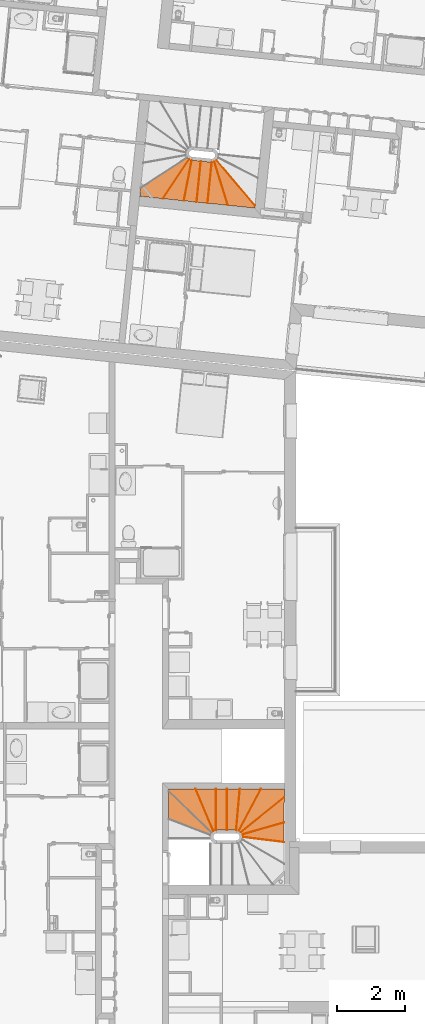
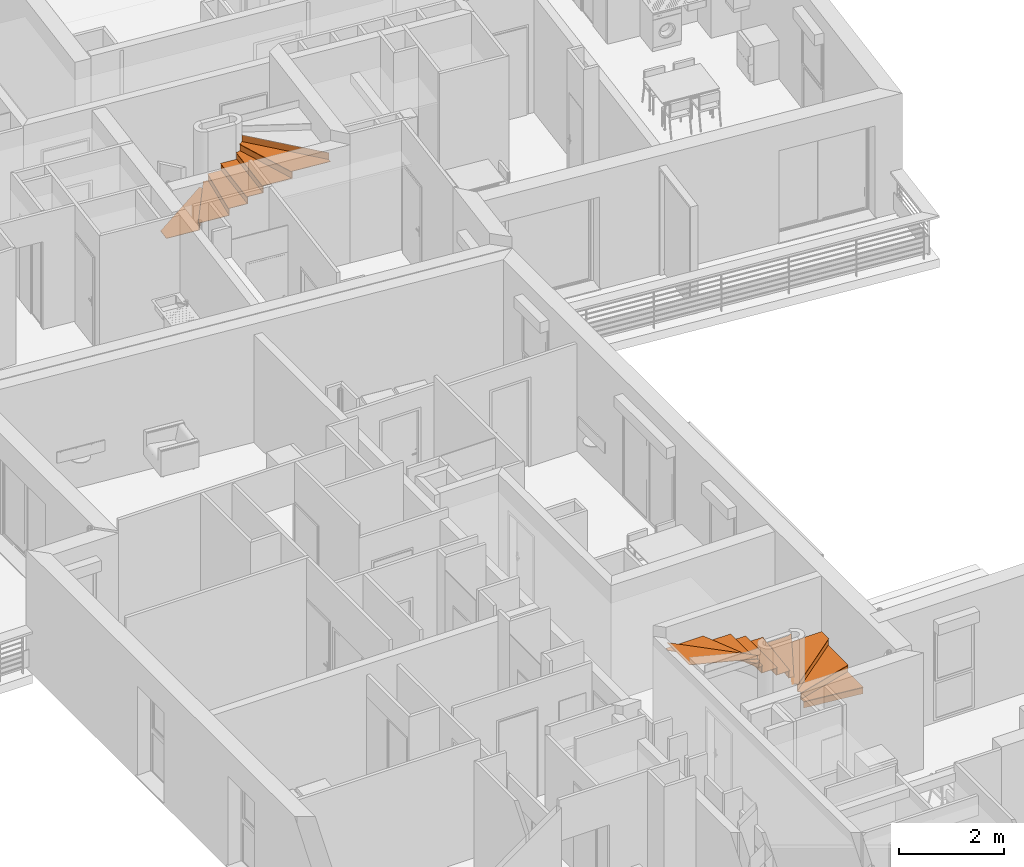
# One storey, part 162 of 164: 29 proxies, 2 elements without a shape of their own.
"""IFC2X3 building model written with IfcOpenShell, lengths in millimetres."""

import ifcopenshell
import ifcopenshell.guid

model = None  # the IFC model being written
_history = None  # IfcOwnerHistory: only IFC2X3 demands one
_inside = {}  # id of a spatial element -> (the spatial element, [elements in it])
_under = {}  # id of a project, library or spatial element -> (it, [spatial elements below it])
_declared = {}  # id of a project -> (the project, [libraries it declares])
_typed = {}  # id of a type object -> (the type object, [elements of that type])
_made_of = {}  # id of a material, layer set ... -> (it, [elements and type objects made of it])


def new_model(schema):
    """Start an empty IFC model of exactly this schema.

    Asked for "IFC4X3", IfcOpenShell would pick the latest addendum, in which some entities
    have other attributes; the version numbers below select the first issue.
    IFC2X3 requires an IfcOwnerHistory on every rooted entity: one is made here for all.
    """
    global model, _history
    if schema == "IFC4X3":
        model = ifcopenshell.file(schema_version=(4, 3, 0, 0))
    else:
        model = ifcopenshell.file(schema=schema)
    _inside.clear()
    _under.clear()
    _declared.clear()
    _typed.clear()
    _made_of.clear()
    _history = None
    if model.schema == "IFC2X3":
        org = make("IfcOrganization", Name="unknown")
        user = make(
            "IfcPersonAndOrganization",
            ThePerson=make("IfcPerson", FamilyName="unknown"),
            TheOrganization=org,
        )
        app = make(
            "IfcApplication",
            ApplicationDeveloper=org,
            Version="unknown",
            ApplicationFullName="unknown",
            ApplicationIdentifier="unknown",
        )
        _history = make(
            "IfcOwnerHistory",
            OwningUser=user,
            OwningApplication=app,
            ChangeAction="ADDED",
            CreationDate=0,
        )
    return model


def make(cls, **values):
    """One entity of the class cls with the attributes given. An attribute that is None is left unset."""
    return model.create_entity(
        cls, **{name: value for name, value in values.items() if value is not None}
    )


def entity(cls, *values):
    """Any entity or typed value of the class cls, its attributes in the order of the schema. None: left unset."""
    e = model.create_entity(cls)
    for i, value in enumerate(values):
        if value is not None:
            e[i] = value
    return e


def rooted(cls, **values):
    """An entity with a GlobalId (a new one), such as an element, a storey or a relation."""
    return make(cls, GlobalId=ifcopenshell.guid.new(), OwnerHistory=_history, **values)


def si_unit(unit_type, name, prefix=None):
    """IfcSIUnit, for example si_unit("LENGTHUNIT", "METRE", prefix="MILLI")."""
    return make("IfcSIUnit", UnitType=unit_type, Prefix=prefix, Name=name)


def converted_unit(unit_type, name, factor, base, dimensions=None, offset=None):
    """IfcConversionBasedUnit, such as the inch: factor (a typed value) times the base unit."""
    return make(
        "IfcConversionBasedUnit"
        if offset is None
        else "IfcConversionBasedUnitWithOffset",
        ConversionOffset=offset,
        Dimensions=None
        if dimensions is None
        else entity("IfcDimensionalExponents", *dimensions),
        UnitType=unit_type,
        Name=name,
        ConversionFactor=make(
            "IfcMeasureWithUnit", ValueComponent=factor, UnitComponent=base
        ),
    )


def derived_unit(unit_type, elements):
    """IfcDerivedUnit: a product of units, each with its exponent."""
    return make(
        "IfcDerivedUnit",
        Elements=[
            make("IfcDerivedUnitElement", Unit=unit, Exponent=power)
            for unit, power in elements
        ],
        UnitType=unit_type,
    )


def money_unit(currency):
    """IfcMonetaryUnit."""
    return make("IfcMonetaryUnit", Currency=currency)


def assignment(units):
    """IfcUnitAssignment: the units of a project."""
    return None if units is None else make("IfcUnitAssignment", Units=units)


def point(xyz):
    """IfcCartesianPoint."""
    return None if xyz is None else make("IfcCartesianPoint", Coordinates=xyz)


def direction(xyz):
    """IfcDirection."""
    return None if xyz is None else make("IfcDirection", DirectionRatios=xyz)


def frame(location, z_axis=None, x_axis=None):
    """IfcAxis2Placement3D, a coordinate frame: its origin and axes. An axis left out is left unset."""
    return make(
        "IfcAxis2Placement3D",
        Location=point(location),
        Axis=direction(z_axis),
        RefDirection=direction(x_axis),
    )


def origin_with_axes():
    """The frame at (0, 0, 0) with the z axis (0, 0, 1) and the x axis (1, 0, 0) written out."""
    return frame((0.0, 0.0, 0.0), z_axis=(0.0, 0.0, 1.0), x_axis=(1.0, 0.0, 0.0))


def place(relative_to, where):
    """IfcLocalPlacement: puts the frame where relative to a parent placement (None: the world)."""
    return make(
        "IfcLocalPlacement", PlacementRelTo=relative_to, RelativePlacement=where
    )


def context(
    kind, dimensions, precision=None, world=None, true_north=None, identifier=None
):
    """IfcGeometricRepresentationContext, for example the 3D "Model" context."""
    return make(
        "IfcGeometricRepresentationContext",
        ContextIdentifier=identifier,
        ContextType=kind,
        CoordinateSpaceDimension=dimensions,
        Precision=precision,
        WorldCoordinateSystem=world,
        TrueNorth=true_north,
    )


def subcontext(parent, identifier, kind, view, scale=None):
    """IfcGeometricRepresentationSubContext, for example "Body" below "Model"."""
    return make(
        "IfcGeometricRepresentationSubContext",
        ContextIdentifier=identifier,
        ContextType=kind,
        ParentContext=parent,
        TargetScale=scale,
        TargetView=view,
    )


def project(units=None, contexts=None):
    """IfcProject with its units and contexts."""
    return rooted(
        "IfcProject",
        Name="project",
        RepresentationContexts=contexts,
        UnitsInContext=assignment(units),
    )


def spatial(cls, under=None, at=None, **own):
    """A site, building, storey or space (cls), placed at a placement, below another one or the project."""
    s = rooted(cls, ObjectPlacement=at, **own)
    if under is not None:
        _under.setdefault(under.id(), (under, []))[1].append(s)
    return s


def faces_of(points, faces, orient=None, outer=None):
    """IfcFace entities. A face is a list of loops; a loop is a list of indices into points, from 0.

    orient and outer hold one flag for each loop. By default every Orientation is true, the
    first loop of a face is its IfcFaceOuterBound and the others are IfcFaceBound.
    """
    made = []
    for i, loops in enumerate(faces):
        bounds = []
        for j, loop in enumerate(loops):
            is_outer = j == 0 if outer is None else outer[i][j]
            bounds.append(
                make(
                    "IfcFaceOuterBound" if is_outer else "IfcFaceBound",
                    Bound=make("IfcPolyLoop", Polygon=[points[k] for k in loop]),
                    Orientation=True if orient is None else orient[i][j],
                )
            )
        made.append(make("IfcFace", Bounds=bounds))
    return made


def faceted_brep(points, faces, orient=None, outer=None, voids=None):
    """IfcFacetedBrep: a solid bounded by flat faces; with voids (closed shells), ...WithVoids."""
    shared = [point(p) for p in points]
    hull = make("IfcClosedShell", CfsFaces=faces_of(shared, faces, orient, outer))
    if voids is None:
        return make("IfcFacetedBrep", Outer=hull)
    return make(
        "IfcFacetedBrepWithVoids",
        Outer=hull,
        Voids=[
            make(cls, CfsFaces=faces_of(shared, fs, o, b)) for cls, fs, o, b in voids
        ],
    )


def shape(context_of_items, identifier, shape_type, items):
    """IfcShapeRepresentation: the items that make up one representation, for example the "Body"."""
    return make(
        "IfcShapeRepresentation",
        ContextOfItems=context_of_items,
        RepresentationIdentifier=identifier,
        RepresentationType=shape_type,
        Items=items,
    )


def material(Name=None, Category=None):
    """IfcMaterial."""
    return make("IfcMaterial", Name=Name, Category=Category)


def made_of(thing, what):
    """Note that an element or type object is made of a material, layer set ...; save() writes the relation."""
    if what is not None:
        _made_of.setdefault(what.id(), (what, []))[1].append(thing)
    return thing


def type_object(cls, material=None, **own):
    """A type object (cls), such as IfcWallType, which elements share."""
    return made_of(rooted(cls, **own), material)


def element(
    cls,
    number,
    at=None,
    inside=None,
    cuts=None,
    type_object=None,
    material=None,
    context=None,
    identifier="Body",
    shape_type=None,
    held_by="IfcProductDefinitionShape",
    body=None,
    shapes=None,
    **own,
):
    """One element of the class cls, such as IfcWall. Its Tag is "e" and its number.

    at: its placement. inside: the storey or other place that contains it. cuts: it is an
    opening in that element (IfcRelVoidsElement). A single representation is given by context,
    identifier, shape_type and body (its items); several are given by shapes. held_by: the class
    of the entity that holds the representations. save() writes the other relations.
    """
    e = rooted(cls, Tag="e%d" % number, ObjectPlacement=at, **own)
    if body is not None:
        shapes = [shape(context, identifier, shape_type, body)]
    if shapes is not None:
        e.Representation = make(held_by, Representations=shapes)
    if inside is not None:
        _inside.setdefault(inside.id(), (inside, []))[1].append(e)
    if cuts is not None:
        rooted(
            "IfcRelVoidsElement", RelatingBuildingElement=cuts, RelatedOpeningElement=e
        )
    if type_object is not None:
        _typed.setdefault(type_object.id(), (type_object, []))[1].append(e)
    return made_of(e, material)


def aggregate(whole, parts):
    """IfcRelAggregates: a whole, such as a stair, and the parts it consists of."""
    return rooted("IfcRelAggregates", RelatingObject=whole, RelatedObjects=parts)


def save(model, path):
    """Write the relations noted so far, then the file.

    IfcRelAggregates (storeys below a building ...), IfcRelContainedInSpatialStructure (elements
    in a storey), IfcRelDefinesByType, IfcRelAssociatesMaterial and IfcRelDeclares: one each for
    every whole, place, type object, material and project.
    """
    for whole, parts in _under.values():
        aggregate(whole, parts)
    for where, things in _inside.values():
        rooted(
            "IfcRelContainedInSpatialStructure",
            RelatedElements=things,
            RelatingStructure=where,
        )
    for kind, things in _typed.values():
        rooted("IfcRelDefinesByType", RelatedObjects=things, RelatingType=kind)
    for what, things in _made_of.values():
        rooted("IfcRelAssociatesMaterial", RelatedObjects=things, RelatingMaterial=what)
    for by, libraries in _declared.values():
        rooted("IfcRelDeclares", RelatingContext=by, RelatedDefinitions=libraries)
    model.write(path)


model = new_model("IFC2X3")

# Units and contexts
model_context = context("Model", 3, precision=0.01, world=origin_with_axes(), true_north=direction((0.0, 1.0)))
body_context = subcontext(model_context, "Body", "Model", "MODEL_VIEW")
ifc_project = project(units=[si_unit("LENGTHUNIT", "METRE", prefix="MILLI"), si_unit("AREAUNIT", "SQUARE_METRE"), si_unit("VOLUMEUNIT", "CUBIC_METRE"), converted_unit("PLANEANGLEUNIT", "DEGREE", entity("IfcPlaneAngleMeasure", 0.0174532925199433), si_unit("PLANEANGLEUNIT", "RADIAN"), dimensions=[0, 0, 0, 0, 0, 0, 0]), money_unit("USD"), converted_unit("TIMEUNIT", "Year", entity("IfcTimeMeasure", 31557600.0), si_unit("TIMEUNIT", "SECOND"), dimensions=[0, 0, 1, 0, 0, 0, 0]), si_unit("MASSUNIT", "GRAM", prefix="KILO"), si_unit("THERMODYNAMICTEMPERATUREUNIT", "DEGREE_CELSIUS"), si_unit("LUMINOUSINTENSITYUNIT", "LUMEN"), si_unit("ENERGYUNIT", "JOULE", prefix="MEGA"), derived_unit("THERMALCONDUCTANCEUNIT", [(si_unit("POWERUNIT", "WATT"), 1), (si_unit("LENGTHUNIT", "METRE"), -1), (si_unit("THERMODYNAMICTEMPERATUREUNIT", "KELVIN"), -1)]), derived_unit("SPECIFICHEATCAPACITYUNIT", [(si_unit("ENERGYUNIT", "JOULE"), 1), (si_unit("MASSUNIT", "GRAM", prefix="KILO"), -1), (si_unit("THERMODYNAMICTEMPERATUREUNIT", "KELVIN"), -1)]), derived_unit("MASSDENSITYUNIT", [(si_unit("MASSUNIT", "GRAM", prefix="KILO"), 1), (si_unit("VOLUMEUNIT", "CUBIC_METRE"), -1)])], contexts=[model_context])

# Site, building, storey
site_placement = place(None, origin_with_axes())
site = spatial("IfcSite", under=ifc_project, at=site_placement, Name="Site", CompositionType="ELEMENT")
building_placement = place(site_placement, origin_with_axes())
building = spatial("IfcBuilding", under=site, at=building_placement, Name="Bâtiment", CompositionType="ELEMENT")
storey_placement = place(building_placement, frame((0.0, 0.0, 5750.0), z_axis=(0.0, 0.0, 1.0), x_axis=(1.0, 0.0, 0.0)))
storey = spatial("IfcBuildingStorey", under=building, at=storey_placement, Name="Etage1", CompositionType="ELEMENT", Elevation=5750.0)

# Stair, proxies
stair_1_placement = place(storey_placement, frame((2227115.16403848, -636013.3434519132, 0.0), z_axis=(0.0, 0.0, 1.0), x_axis=(1.0, 0.0, 0.0)))
stair_1 = element("IfcStair", 1, at=stair_1_placement, inside=storey, Name="ESC-020", ShapeType="NOTDEFINED")
ifc_material_1 = material(Name="Parpaing 2676271321")
building_element_proxy_type = type_object("IfcBuildingElementProxyType", Name="IfcBuildingElementProxy", PredefinedType="NOTDEFINED")
proxy_1_placement = place(stair_1_placement, frame((1582.145980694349, 100.1630841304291, 1122.35294117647), z_axis=(0.0, 0.0, 1.0), x_axis=(0.9923864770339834, -0.123162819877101, 0.0)))
proxy_1 = element("IfcBuildingElementProxy", 2, at=proxy_1_placement, type_object=building_element_proxy_type, material=ifc_material_1, Name="C-MARCHE-338", context=body_context, shape_type="Brep", body=[
    faceted_brep([(616.9148624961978, 14.99999999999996, 0.0), (615.6568410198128, 24.99999999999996, 0.0), (-611.3159759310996, 25.00000000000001, 0.0), (-610.5635345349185, 15.00000000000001, 0.0), (616.9148624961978, 14.99999999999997, -151.7647058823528), (615.6568410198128, 24.99999999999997, -151.7647058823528), (-611.3159759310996, 25.00000000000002, -151.7647058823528), (-610.5635345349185, 15.00000000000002, -151.7647058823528)], [[[0, 1, 2, 3]], [[0, 4, 5, 1]], [[1, 5, 6, 2]], [[3, 2, 6, 7]], [[4, 0, 3, 7]], [[5, 4, 7, 6]]]),
])
proxy_2_placement = place(stair_1_placement, frame((1557.233341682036, 422.1230880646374, 1284.117647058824), z_axis=(0.0, 0.0, 1.0), x_axis=(0.9616268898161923, 0.2743605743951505, 0.0)))
proxy_2 = element("IfcBuildingElementProxy", 3, at=proxy_2_placement, type_object=building_element_proxy_type, material=ifc_material_1, Name="C-MARCHE-339", context=body_context, shape_type="Brep", body=[
    faceted_brep([(669.3900729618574, 14.99999999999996, 0.0), (672.2592924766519, 24.99999999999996, 0.0), (-611.3159759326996, 25.00000000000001, 0.0), (-610.5635345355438, 15.00000000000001, 0.0), (669.3900729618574, 14.99999999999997, -151.764705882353), (672.2592924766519, 24.99999999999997, -151.764705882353), (-611.3159759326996, 25.00000000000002, -151.764705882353), (-610.5635345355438, 15.00000000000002, -151.764705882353)], [[[0, 1, 2, 3]], [[0, 4, 5, 1]], [[1, 5, 6, 2]], [[3, 2, 6, 7]], [[4, 0, 3, 7]], [[5, 4, 7, 6]]]),
])
proxy_3_placement = place(stair_1_placement, frame((1408.508417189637, 708.7583624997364, 1445.882352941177), z_axis=(0.0, 0.0, 1.0), x_axis=(0.7779965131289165, 0.6282685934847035, 0.0)))
proxy_3 = element("IfcBuildingElementProxy", 4, at=proxy_3_placement, type_object=building_element_proxy_type, material=ifc_material_1, Name="C-MARCHE-340", context=body_context, shape_type="Brep", body=[
    faceted_brep([(1026.802065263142, 15.00000000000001, 0.0), (1034.902198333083, 25.00000000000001, 0.0), (-611.3159759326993, 25.00000000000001, 0.0), (-610.5635345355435, 15.00000000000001, 0.0), (1026.802065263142, 15.00000000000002, -151.764705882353), (1034.902198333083, 25.00000000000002, -151.764705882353), (-611.3159759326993, 25.00000000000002, -151.764705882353), (-610.5635345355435, 15.00000000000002, -151.764705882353)], [[[0, 1, 2, 3]], [[0, 4, 5, 1]], [[1, 5, 6, 2]], [[3, 2, 6, 7]], [[4, 0, 3, 7]], [[5, 4, 7, 6]]]),
])
proxy_4_placement = place(stair_1_placement, frame((1159.614157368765, 914.5022108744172, 1607.647058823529), z_axis=(0.0, 0.0, 1.0), x_axis=(0.4706872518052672, 0.8823001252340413, 0.0)))
proxy_4 = element("IfcBuildingElementProxy", 5, at=proxy_4_placement, type_object=building_element_proxy_type, material=ifc_material_1, Name="C-MARCHE-341", context=body_context, shape_type="Brep", body=[
    faceted_brep([(791.4159478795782, 14.9999999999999, 0.0), (786.0811756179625, 24.9999999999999, 0.0), (-611.3159759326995, 25.00000000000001, 0.0), (-610.5635345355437, 15.00000000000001, 0.0), (791.4159478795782, 14.99999999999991, -151.7647058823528), (786.0811756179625, 24.99999999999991, -151.7647058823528), (-611.3159759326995, 25.00000000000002, -151.7647058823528), (-610.5635345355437, 15.00000000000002, -151.7647058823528)], [[[0, 1, 2, 3]], [[0, 4, 5, 1]], [[1, 5, 6, 2]], [[3, 2, 6, 7]], [[4, 0, 3, 7]], [[5, 4, 7, 6]]]),
])
proxy_5_placement = place(stair_1_placement, frame((200.0104641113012, 1009.829175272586, 2092.941176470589), z_axis=(0.0, 0.0, 1.0), x_axis=(2.01427872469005e-07, 0.9999999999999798, 0.0)))
proxy_5 = element("IfcBuildingElementProxy", 6, at=proxy_5_placement, type_object=building_element_proxy_type, material=ifc_material_1, Name="C-MARCHE-344", context=body_context, shape_type="Brep", body=[
    faceted_brep([(609.9999927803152, 14.99999999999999, 0.0), (609.9999879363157, 24.99999999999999, 0.0), (-611.3039816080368, 24.99999999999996, 0.0), (-610.556363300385, 14.99999999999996, 0.0), (609.9999927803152, 14.99999999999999, -151.764705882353), (609.9999879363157, 24.99999999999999, -151.764705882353), (-611.3039816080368, 24.99999999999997, -151.764705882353), (-610.556363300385, 14.99999999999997, -151.764705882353)], [[[0, 1, 2, 3]], [[0, 4, 5, 1]], [[1, 5, 6, 2]], [[3, 2, 6, 7]], [[4, 0, 3, 7]], [[5, 4, 7, 6]]]),
])
proxy_6_placement = place(stair_1_placement, frame((850.1175319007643, 1006.64732761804, 1769.411764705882), z_axis=(0.0, 0.0, 1.0), x_axis=(0.08855236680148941, 0.9960715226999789, 0.0)))
proxy_6 = element("IfcBuildingElementProxy", 7, at=proxy_6_placement, type_object=building_element_proxy_type, material=ifc_material_1, Name="C-MARCHE-342", context=body_context, shape_type="Brep", body=[
    faceted_brep([(614.2665554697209, 15.00000000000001, 0.0), (613.3775413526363, 25.00000000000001, 0.0), (-611.3159759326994, 25.00000000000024, 0.0), (-610.5635345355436, 15.00000000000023, 0.0), (614.2665554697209, 15.00000000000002, -151.764705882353), (613.3775413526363, 25.00000000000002, -151.764705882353), (-611.3159759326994, 25.00000000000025, -151.764705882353), (-610.5635345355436, 15.00000000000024, -151.764705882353)], [[[0, 1, 2, 3]], [[0, 4, 5, 1]], [[1, 5, 6, 2]], [[3, 2, 6, 7]], [[4, 0, 3, 7]], [[5, 4, 7, 6]]]),
])
proxy_7_placement = place(stair_1_placement, frame((-116.4375896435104, 945.4901224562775, 2254.705882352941), z_axis=(0.0, 0.0, 1.0), x_axis=(-0.3905995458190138, 0.9205606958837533, 0.0)))
proxy_7 = element("IfcBuildingElementProxy", 8, at=proxy_7_placement, type_object=building_element_proxy_type, material=ifc_material_1, Name="C-MARCHE-345", context=body_context, shape_type="Brep", body=[
    faceted_brep([(738.895190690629, 15.00000000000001, 0.0), (743.1382486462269, 25.00000000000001, 0.0), (-611.3159759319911, 25.00000000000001, 0.0), (-610.5635345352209, 15.00000000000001, 0.0), (738.895190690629, 15.00000000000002, -151.764705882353), (743.1382486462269, 25.00000000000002, -151.764705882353), (-611.3159759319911, 25.00000000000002, -151.764705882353), (-610.5635345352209, 15.00000000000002, -151.764705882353)], [[[0, 1, 2, 3]], [[0, 4, 5, 1]], [[1, 5, 6, 2]], [[3, 2, 6, 7]], [[4, 0, 3, 7]], [[5, 4, 7, 6]]]),
])
ifc_material_2 = material(Name="Lame d'air 275581351")
proxy_8_placement = place(stair_1_placement, frame((1582.145980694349, 100.1630841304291, 1132.352941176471), z_axis=(0.0, 0.0, 1.0), x_axis=(0.9923864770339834, -0.123162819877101, 0.0)))
proxy_8 = element("IfcBuildingElementProxy", 9, at=proxy_8_placement, type_object=building_element_proxy_type, material=ifc_material_2, Name="MARCHE-338", context=body_context, shape_type="Brep", body=[
    faceted_brep([(-610.0000000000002, 0.0, -10.0), (618.801894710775, 0.0, -10.0), (618.801894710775, 0.0, 0.0), (-610.0000000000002, 0.0, 0.0), (-610.4531617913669, 13.45295387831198, -10.0), (-618.7562293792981, 58.51773040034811, -10.0), (-637.1026110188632, 100.5080304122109, -10.0), (544.6802479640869, 602.110660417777, -10.0), (606.7813705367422, 95.5510251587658, -10.0), (606.7813705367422, 95.5510251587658, 0.0), (544.6802479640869, 602.110660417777, 0.0), (-637.1026110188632, 100.5080304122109, 0.0), (-618.7562293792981, 58.51773040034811, 0.0), (-610.4531617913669, 13.45295387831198, 0.0)], [[[0, 1, 2, 3]], [[0, 4, 5, 6, 7, 8, 1]], [[1, 8, 9, 2]], [[3, 2, 9, 10, 11, 12, 13]], [[4, 0, 3, 13]], [[5, 4, 13, 12]], [[6, 5, 12, 11]], [[7, 6, 11, 10]], [[8, 7, 10, 9]]]),
])
proxy_9_placement = place(stair_1_placement, frame((1557.233341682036, 422.1230880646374, 1294.117647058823), z_axis=(0.0, 0.0, 1.0), x_axis=(0.9616268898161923, 0.2743605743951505, 0.0)))
proxy_9 = element("IfcBuildingElementProxy", 10, at=proxy_9_placement, type_object=building_element_proxy_type, material=ifc_material_2, Name="MARCHE-339", context=body_context, shape_type="Brep", body=[
    faceted_brep([(-609.9999999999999, 0.0, -10.0), (665.0862436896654, 0.0, -10.0), (665.0862436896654, 0.0, 0.0), (-609.9999999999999, 0.0, 0.0), (-613.07410592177, 34.92373449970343, -10.0), (-622.2018820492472, 68.7734178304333, -10.0), (-637.1026110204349, 100.5080303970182, -10.0), (878.498300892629, 743.7982911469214, -10.0), (878.498300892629, 743.7982911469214, 0.0), (-637.1026110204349, 100.5080303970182, 0.0), (-622.2018820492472, 68.7734178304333, 0.0), (-613.07410592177, 34.92373449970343, 0.0)], [[[0, 1, 2, 3]], [[0, 4, 5, 6, 7, 1]], [[1, 7, 8, 2]], [[3, 2, 8, 9, 10, 11]], [[4, 0, 3, 11]], [[5, 4, 11, 10]], [[6, 5, 10, 9]], [[7, 6, 9, 8]]]),
])
proxy_10_placement = place(stair_1_placement, frame((1408.508417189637, 708.7583624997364, 1455.882352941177), z_axis=(0.0, 0.0, 1.0), x_axis=(0.7779965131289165, 0.6282685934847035, 0.0)))
proxy_10 = element("IfcBuildingElementProxy", 11, at=proxy_10_placement, type_object=building_element_proxy_type, material=ifc_material_2, Name="MARCHE-340", context=body_context, shape_type="Brep", body=[
    faceted_brep([(-609.9999999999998, 0.0, -10.0), (1014.651865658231, 0.0, -10.0), (1014.651865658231, 0.0, 0.0), (-609.9999999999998, 0.0, 0.0), (-613.0741059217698, 34.92373449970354, -10.0), (-622.2018820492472, 68.77341783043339, -10.0), (-637.102611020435, 100.5080303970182, -10.0), (649.4549417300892, 646.5818266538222, -10.0), (1186.861356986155, 212.6008175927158, -10.0), (1186.861356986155, 212.6008175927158, 0.0), (649.4549417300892, 646.5818266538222, 0.0), (-637.102611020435, 100.5080303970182, 0.0), (-622.2018820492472, 68.77341783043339, 0.0), (-613.0741059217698, 34.92373449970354, 0.0)], [[[0, 1, 2, 3]], [[0, 4, 5, 6, 7, 8, 1]], [[1, 8, 9, 2]], [[3, 2, 9, 10, 11, 12, 13]], [[4, 0, 3, 13]], [[5, 4, 13, 12]], [[6, 5, 12, 11]], [[7, 6, 11, 10]], [[8, 7, 10, 9]]]),
])
proxy_11_placement = place(stair_1_placement, frame((1159.614157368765, 914.5022108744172, 1617.647058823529), z_axis=(0.0, 0.0, 1.0), x_axis=(0.4706872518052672, 0.8823001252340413, 0.0)))
proxy_11 = element("IfcBuildingElementProxy", 12, at=proxy_11_placement, type_object=building_element_proxy_type, material=ifc_material_2, Name="MARCHE-341", context=body_context, shape_type="Brep", body=[
    faceted_brep([(-609.9999999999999, 0.0, -10.0), (799.4181062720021, 0.0, -10.0), (799.4181062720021, 0.0, 0.0), (-609.9999999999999, 0.0, 0.0), (-615.971666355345, 48.49727697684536, -10.0), (-633.5299051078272, 94.0972213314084, -10.0), (-636.9781155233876, 100.5608719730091, -10.0), (490.4787422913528, 579.1050654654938, -10.0), (490.4787422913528, 579.1050654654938, 0.0), (-636.9781155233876, 100.5608719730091, 0.0), (-633.5299051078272, 94.0972213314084, 0.0), (-615.971666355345, 48.49727697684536, 0.0)], [[[0, 1, 2, 3]], [[0, 4, 5, 6, 7, 1]], [[1, 7, 8, 2]], [[3, 2, 8, 9, 10, 11]], [[4, 0, 3, 11]], [[5, 4, 11, 10]], [[6, 5, 10, 9]], [[7, 6, 9, 8]]]),
])
proxy_12_placement = place(stair_1_placement, frame((850.1175319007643, 1006.64732761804, 1779.411764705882), z_axis=(0.0, 0.0, 1.0), x_axis=(0.08855236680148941, 0.9960715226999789, 0.0)))
proxy_12 = element("IfcBuildingElementProxy", 13, at=proxy_12_placement, type_object=building_element_proxy_type, material=ifc_material_2, Name="MARCHE-342", context=body_context, shape_type="Brep", body=[
    faceted_brep([(-609.9999999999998, 0.0, -10.0), (615.6000766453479, 0.0, -10.0), (615.6000766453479, 0.0, 0.0), (-609.9999999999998, 0.0, 0.0), (-610.7853563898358, 17.70287107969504, -10.0), (-635.42825621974, 294.8964425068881, -10.0), (579.7790232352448, 402.9300852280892, -10.0), (604.4219230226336, 125.7365142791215, -10.0), (604.4219230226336, 125.7365142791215, 0.0), (579.7790232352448, 402.9300852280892, 0.0), (-635.42825621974, 294.8964425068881, 0.0), (-610.7853563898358, 17.70287107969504, 0.0)], [[[0, 1, 2, 3]], [[0, 4, 5, 6, 7, 1]], [[1, 7, 8, 2]], [[3, 2, 8, 9, 10, 11]], [[4, 0, 3, 11]], [[5, 4, 11, 10]], [[6, 5, 10, 9]], [[7, 6, 9, 8]]]),
])
proxy_13_placement = place(stair_1_placement, frame((525.1110302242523, 1009.829109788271, 1941.176470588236), z_axis=(0.0, 0.0, 1.0), x_axis=(2.014278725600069e-07, 0.9999999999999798, 0.0)))
proxy_13 = element("IfcBuildingElementProxy", 14, at=proxy_13_placement, type_object=building_element_proxy_type, material=ifc_material_2, Name="MARCHE-343", context=body_context, shape_type="Brep", body=[
    faceted_brep([(-609.9999999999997, 0.0, -10.0), (609.9999999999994, 0.0, -10.0), (609.9999999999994, 0.0, 0.0), (-609.9999999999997, 0.0, 0.0), (-609.9999999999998, 325.196259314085, -10.0), (-611.5572991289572, 350.1005661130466, -10.0), (609.9999879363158, 350.1005661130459, -10.0), (609.9999999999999, 325.1961787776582, -10.0), (609.9999999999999, 325.1961787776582, 0.0), (609.9999879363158, 350.1005661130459, 0.0), (-611.5572991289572, 350.1005661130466, 0.0), (-609.9999999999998, 325.196259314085, 0.0)], [[[0, 1, 2, 3]], [[0, 4, 5, 6, 7, 1]], [[1, 7, 8, 2]], [[3, 2, 8, 9, 10, 11]], [[4, 0, 3, 11]], [[5, 4, 11, 10]], [[6, 5, 10, 9]], [[7, 6, 9, 8]]]),
])
proxy_14_placement = place(stair_1_placement, frame((200.0104641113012, 1009.829175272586, 2102.941176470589), z_axis=(0.0, 0.0, 1.0), x_axis=(2.01427872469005e-07, 0.9999999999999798, 0.0)))
proxy_14 = element("IfcBuildingElementProxy", 15, at=proxy_14_placement, type_object=building_element_proxy_type, material=ifc_material_2, Name="MARCHE-344", context=body_context, shape_type="Brep", body=[
    faceted_brep([(-609.9999999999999, 0.0, -10.0), (609.9999999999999, 0.0, -10.0), (609.9999999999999, 0.0, 0.0), (-609.9999999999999, 0.0, 0.0), (-609.9999999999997, 0.09569320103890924, -10.0), (-613.0727411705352, 35.01165415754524, -10.0), (-622.1964792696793, 68.85428217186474, -10.0), (-637.0907469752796, 100.5832414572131, -10.0), (609.9996950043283, 629.7316564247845, -10.0), (609.9999999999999, 0.09561266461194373, -10.0), (609.9999999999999, 0.09561266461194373, 0.0), (609.9996950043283, 629.7316564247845, 0.0), (-637.0907469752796, 100.5832414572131, 0.0), (-622.1964792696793, 68.85428217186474, 0.0), (-613.0727411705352, 35.01165415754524, 0.0), (-609.9999999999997, 0.09569320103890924, 0.0)], [[[0, 1, 2, 3]], [[0, 4, 5, 6, 7, 8, 9, 1]], [[1, 9, 10, 2]], [[3, 2, 10, 11, 12, 13, 14, 15]], [[4, 0, 3, 15]], [[5, 4, 15, 14]], [[6, 5, 14, 13]], [[7, 6, 13, 12]], [[8, 7, 12, 11]], [[9, 8, 11, 10]]]),
])
proxy_15_placement = place(stair_1_placement, frame((-382.594805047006, 762.6261828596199, 2426.470588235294), z_axis=(0.0, 0.0, 1.0), x_axis=(-0.719223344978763, 0.6947789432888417, 0.0)))
proxy_15 = element("IfcBuildingElementProxy", 16, at=proxy_15_placement, type_object=building_element_proxy_type, material=ifc_material_2, Name="MARCHE-346", context=body_context, shape_type="Brep", body=[
    faceted_brep([(-609.9999999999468, 0.0, -10.0), (1168.148248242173, 0.0, -10.0), (1168.148248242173, 0.0, 0.0), (-609.9999999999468, 0.0, 0.0), (-613.0741059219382, 34.92373450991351, -10.0), (-622.2018820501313, 68.77341785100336, -10.0), (-637.102611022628, 100.5080304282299, -10.0), (572.6500316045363, 613.9823142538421, -10.0), (572.6500316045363, 613.9823142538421, 0.0), (-637.102611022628, 100.5080304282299, 0.0), (-622.2018820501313, 68.77341785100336, 0.0), (-613.0741059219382, 34.92373450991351, 0.0)], [[[0, 1, 2, 3]], [[0, 4, 5, 6, 7, 1]], [[1, 7, 8, 2]], [[3, 2, 8, 9, 10, 11]], [[4, 0, 3, 11]], [[5, 4, 11, 10]], [[6, 5, 10, 9]], [[7, 6, 9, 8]]]),
])
proxy_16_placement = place(stair_1_placement, frame((-116.4375896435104, 945.4901224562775, 2264.705882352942), z_axis=(0.0, 0.0, 1.0), x_axis=(-0.3905995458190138, 0.9205606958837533, 0.0)))
proxy_16 = element("IfcBuildingElementProxy", 17, at=proxy_16_placement, type_object=building_element_proxy_type, material=ifc_material_2, Name="MARCHE-345", context=body_context, shape_type="Brep", body=[
    faceted_brep([(-609.9999999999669, 0.0, -10.0), (732.5306037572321, 0.0, -10.0), (732.5306037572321, 0.0, 0.0), (-609.9999999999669, 0.0, 0.0), (-613.0741059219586, 34.92373450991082, -10.0), (-622.201882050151, 68.77341785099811, -10.0), (-637.1026110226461, 100.5080304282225, -10.0), (978.8331675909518, 786.3849918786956, -10.0), (1052.932155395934, 755.1194327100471, -10.0), (1052.932155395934, 755.1194327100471, 0.0), (978.8331675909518, 786.3849918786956, 0.0), (-637.1026110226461, 100.5080304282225, 0.0), (-622.201882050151, 68.77341785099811, 0.0), (-613.0741059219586, 34.92373450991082, 0.0)], [[[0, 1, 2, 3]], [[0, 4, 5, 6, 7, 8, 1]], [[1, 8, 9, 2]], [[3, 2, 9, 10, 11, 12, 13]], [[4, 0, 3, 13]], [[5, 4, 13, 12]], [[6, 5, 12, 11]], [[7, 6, 11, 10]], [[8, 7, 10, 9]]]),
])
proxy_17_placement = place(stair_1_placement, frame((525.1110302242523, 1009.829109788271, 1931.176470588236), z_axis=(0.0, 0.0, 1.0), x_axis=(2.014278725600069e-07, 0.9999999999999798, 0.0)))
proxy_17 = element("IfcBuildingElementProxy", 18, at=proxy_17_placement, type_object=building_element_proxy_type, material=ifc_material_1, Name="C-MARCHE-343", context=body_context, shape_type="Brep", body=[
    faceted_brep([(610.0000000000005, 15.0, 0.0), (610.0000000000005, 24.99999999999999, 0.0), (-610.0, 24.99999999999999, 0.0), (-610.0, 15.0, 0.0), (610.0000000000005, 15.00000000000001, -151.7647058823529), (610.0000000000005, 25.0, -151.7647058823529), (-610.0, 25.0, -151.7647058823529), (-610.0, 15.00000000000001, -151.7647058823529)], [[[0, 1, 2, 3]], [[0, 4, 5, 1]], [[1, 5, 6, 2]], [[3, 2, 6, 7]], [[4, 0, 3, 7]], [[5, 4, 7, 6]]]),
])
aggregate(stair_1, [proxy_1, proxy_2, proxy_3, proxy_4, proxy_5, proxy_6, proxy_7, proxy_8, proxy_9, proxy_10, proxy_11, proxy_12, proxy_13, proxy_14, proxy_15, proxy_16, proxy_17])

stair_2_placement = place(storey_placement, frame((2227388.475510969, -615472.1219328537, 0.0), z_axis=(0.0, 0.0, 1.0), x_axis=(-0.9948232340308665, 0.1016205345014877, 0.0)))
stair_2 = element("IfcStair", 19, at=stair_2_placement, inside=storey, Name="ESC-020", ShapeType="NOTDEFINED")
proxy_18_placement = place(stair_2_placement, frame((1159.614157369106, 914.5022108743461, 1607.647058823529), z_axis=(0.0, 0.0, 1.0), x_axis=(0.4706872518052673, 0.8823001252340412, 0.0)))
proxy_18 = element("IfcBuildingElementProxy", 20, at=proxy_18_placement, type_object=building_element_proxy_type, material=ifc_material_2, Name="C-MARCHE-341", context=body_context, shape_type="Brep", body=[
    faceted_brep([(791.4159478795, 15.00000000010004, 0.0), (786.0811756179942, 25.00000000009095, 0.0), (-611.3159759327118, 25.00000000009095, 0.0), (-610.5635345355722, 14.99999999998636, 0.0), (791.4159478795, 15.00000000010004, -151.7647058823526), (786.0811756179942, 25.00000000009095, -151.7647058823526), (-611.3159759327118, 25.00000000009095, -151.7647058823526), (-610.5635345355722, 14.99999999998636, -151.7647058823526)], [[[0, 1, 2, 3]], [[0, 4, 5, 1]], [[1, 5, 6, 2]], [[3, 2, 6, 7]], [[4, 0, 3, 7]], [[5, 4, 7, 6]]]),
])
proxy_19_placement = place(stair_2_placement, frame((850.1175319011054, 1006.647327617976, 1769.411764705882), z_axis=(0.0, 0.0, 1.0), x_axis=(0.0885523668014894, 0.9960715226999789, 0.0)))
proxy_19 = element("IfcBuildingElementProxy", 21, at=proxy_19_placement, type_object=building_element_proxy_type, material=ifc_material_2, Name="C-MARCHE-342", context=body_context, shape_type="Brep", body=[
    faceted_brep([(614.2665554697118, 14.99999999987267, 0.0), (613.3775413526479, 24.99999999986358, 0.0), (-611.3159759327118, 24.99999999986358, 0.0), (-610.563534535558, 14.99999999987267, 0.0), (614.2665554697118, 14.99999999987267, -151.7647058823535), (613.3775413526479, 24.99999999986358, -151.7647058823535), (-611.3159759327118, 24.99999999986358, -151.7647058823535), (-610.563534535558, 14.99999999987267, -151.7647058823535)], [[[0, 1, 2, 3]], [[0, 4, 5, 1]], [[1, 5, 6, 2]], [[3, 2, 6, 7]], [[4, 0, 3, 7]], [[5, 4, 7, 6]]]),
])
proxy_20_placement = place(stair_2_placement, frame((525.1110302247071, 1009.8291097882, 1931.176470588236), z_axis=(0.0, 0.0, 1.0), x_axis=(2.014278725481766e-07, 0.9999999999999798, 0.0)))
proxy_20 = element("IfcBuildingElementProxy", 22, at=proxy_20_placement, type_object=building_element_proxy_type, material=ifc_material_2, Name="C-MARCHE-343", context=body_context, shape_type="Brep", body=[
    faceted_brep([(609.9999999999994, 14.99999999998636, 0.0), (610.0000000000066, 24.99999999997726, 0.0), (-610.0000000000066, 24.99999999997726, 0.0), (-609.9999999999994, 14.99999999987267, 0.0), (609.9999999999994, 14.99999999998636, -151.7647058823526), (610.0000000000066, 24.99999999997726, -151.7647058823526), (-610.0000000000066, 24.99999999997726, -151.7647058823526), (-609.9999999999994, 14.99999999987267, -151.7647058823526)], [[[0, 1, 2, 3]], [[0, 4, 5, 1]], [[1, 5, 6, 2]], [[3, 2, 6, 7]], [[4, 0, 3, 7]], [[5, 4, 7, 6]]]),
])
proxy_21_placement = place(stair_2_placement, frame((200.0104641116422, 1009.829175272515, 2092.941176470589), z_axis=(0.0, 0.0, 1.0), x_axis=(2.014278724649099e-07, 0.9999999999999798, 0.0)))
proxy_21 = element("IfcBuildingElementProxy", 23, at=proxy_21_placement, type_object=building_element_proxy_type, material=ifc_material_2, Name="C-MARCHE-344", context=body_context, shape_type="Brep", body=[
    faceted_brep([(609.9999927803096, 15.00000000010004, 0.0), (609.9999879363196, 25.00000000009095, 0.0), (-611.3039816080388, 25.00000000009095, 0.0), (-610.5563633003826, 15.00000000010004, 0.0), (609.9999927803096, 15.00000000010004, -151.7647058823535), (609.9999879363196, 25.00000000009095, -151.7647058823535), (-611.3039816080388, 25.00000000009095, -151.7647058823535), (-610.5563633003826, 15.00000000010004, -151.7647058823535)], [[[0, 1, 2, 3]], [[0, 4, 5, 1]], [[1, 5, 6, 2]], [[3, 2, 6, 7]], [[4, 0, 3, 7]], [[5, 4, 7, 6]]]),
])
proxy_22_placement = place(stair_2_placement, frame((-116.4375896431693, 945.4901224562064, 2254.705882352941), z_axis=(0.0, 0.0, 1.0), x_axis=(-0.3905995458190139, 0.9205606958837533, 0.0)))
proxy_22 = element("IfcBuildingElementProxy", 24, at=proxy_22_placement, type_object=building_element_proxy_type, material=ifc_material_2, Name="C-MARCHE-345", context=body_context, shape_type="Brep", body=[
    faceted_brep([(738.8951906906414, 14.99999999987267, 0.0), (743.1382486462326, 24.99999999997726, 0.0), (-611.3159759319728, 24.99999999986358, 0.0), (-610.5635345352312, 14.99999999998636, 0.0), (738.8951906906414, 14.99999999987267, -151.7647058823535), (743.1382486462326, 24.99999999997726, -151.7647058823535), (-611.3159759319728, 24.99999999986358, -151.7647058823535), (-610.5635345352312, 14.99999999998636, -151.7647058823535)], [[[0, 1, 2, 3]], [[0, 4, 5, 1]], [[1, 5, 6, 2]], [[3, 2, 6, 7]], [[4, 0, 3, 7]], [[5, 4, 7, 6]]]),
])
proxy_23_placement = place(stair_2_placement, frame((-382.5948050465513, 762.6261828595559, 2416.470588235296), z_axis=(0.0, 0.0, 1.0), x_axis=(-0.7192233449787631, 0.6947789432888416, 0.0)))
proxy_23 = element("IfcBuildingElementProxy", 25, at=proxy_23_placement, type_object=building_element_proxy_type, material=ifc_material_2, Name="C-MARCHE-346", context=body_context, shape_type="Brep", body=[
    faceted_brep([(1153.599827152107, 14.99999999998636, 0.0), (1143.900879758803, 24.99999999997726, 0.0), (-611.315975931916, 24.99999999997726, 0.0), (-610.5635345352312, 14.99999999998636, 0.0), (1153.599827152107, 14.99999999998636, -151.7647058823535), (1143.900879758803, 24.99999999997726, -151.7647058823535), (-611.315975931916, 24.99999999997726, -151.7647058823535), (-610.5635345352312, 14.99999999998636, -151.7647058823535)], [[[0, 1, 2, 3]], [[0, 4, 5, 1]], [[1, 5, 6, 2]], [[3, 2, 6, 7]], [[4, 0, 3, 7]], [[5, 4, 7, 6]]]),
])
proxy_24_placement = place(stair_2_placement, frame((1408.508417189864, 708.7583624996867, 1455.882352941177), z_axis=(0.0, 0.0, 1.0), x_axis=(0.7779965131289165, 0.6282685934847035, 0.0)))
proxy_24 = element("IfcBuildingElementProxy", 26, at=proxy_24_placement, type_object=building_element_proxy_type, material=ifc_material_2, Name="MARCHE-340", context=body_context, shape_type="Brep", body=[
    faceted_brep([(-609.9999999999, 0.0, -9.999999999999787), (1014.651865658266, 0.0, -9.999999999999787), (1014.651865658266, 0.0, 0.0), (-609.9999999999, 0.0, 0.0), (-613.0741059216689, 34.92373449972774, -9.999999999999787), (-622.2018820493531, 68.77341783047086, -9.999999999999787), (-637.1026110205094, 100.5080303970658, -9.999999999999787), (649.4549417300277, 646.5818266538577, -9.999999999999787), (1186.861356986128, 212.6008175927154, -9.999999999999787), (1186.861356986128, 212.6008175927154, 0.0), (649.4549417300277, 646.5818266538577, 0.0), (-637.1026110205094, 100.5080303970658, 0.0), (-622.2018820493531, 68.77341783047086, 0.0), (-613.0741059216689, 34.92373449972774, 0.0)], [[[0, 1, 2, 3]], [[0, 4, 5, 6, 7, 8, 1]], [[1, 8, 9, 2]], [[3, 2, 9, 10, 11, 12, 13]], [[4, 0, 3, 13]], [[5, 4, 13, 12]], [[6, 5, 12, 11]], [[7, 6, 11, 10]], [[8, 7, 10, 9]]]),
])
proxy_25_placement = place(stair_2_placement, frame((850.1175319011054, 1006.647327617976, 1779.411764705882), z_axis=(0.0, 0.0, 1.0), x_axis=(0.0885523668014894, 0.9960715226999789, 0.0)))
proxy_25 = element("IfcBuildingElementProxy", 27, at=proxy_25_placement, type_object=building_element_proxy_type, material=ifc_material_2, Name="MARCHE-342", context=body_context, shape_type="Brep", body=[
    faceted_brep([(-609.9999999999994, -1.13686837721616e-10, -9.999999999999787), (615.6000766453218, 0.0, -9.999999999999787), (615.6000766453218, 0.0, 0.0), (-609.9999999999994, -1.13686837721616e-10, 0.0), (-610.7853563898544, 17.70287107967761, -9.999999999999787), (-635.4282562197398, 294.896442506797, -9.999999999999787), (579.7790232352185, 402.9300852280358, -9.999999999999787), (604.4219230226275, 125.7365142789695, -9.999999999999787), (604.4219230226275, 125.7365142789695, 0.0), (579.7790232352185, 402.9300852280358, 0.0), (-635.4282562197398, 294.896442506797, 0.0), (-610.7853563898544, 17.70287107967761, 0.0)], [[[0, 1, 2, 3]], [[0, 4, 5, 6, 7, 1]], [[1, 7, 8, 2]], [[3, 2, 8, 9, 10, 11]], [[4, 0, 3, 11]], [[5, 4, 11, 10]], [[6, 5, 10, 9]], [[7, 6, 9, 8]]]),
])
proxy_26_placement = place(stair_2_placement, frame((525.1110302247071, 1009.8291097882, 1941.176470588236), z_axis=(0.0, 0.0, 1.0), x_axis=(2.014278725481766e-07, 0.9999999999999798, 0.0)))
proxy_26 = element("IfcBuildingElementProxy", 28, at=proxy_26_placement, type_object=building_element_proxy_type, material=ifc_material_2, Name="MARCHE-343", context=body_context, shape_type="Brep", body=[
    faceted_brep([(-609.9999999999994, -1.13686837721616e-10, -9.999999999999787), (609.9999999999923, 0.0, -9.999999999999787), (609.9999999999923, 0.0, 0.0), (-609.9999999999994, -1.13686837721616e-10, 0.0), (-609.9999999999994, 325.1962593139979, -9.999999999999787), (-611.5572991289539, 350.1005661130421, -9.999999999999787), (609.9999879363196, 350.1005661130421, -9.999999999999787), (609.9999999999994, 325.1961787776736, -9.999999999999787), (609.9999999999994, 325.1961787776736, 0.0), (609.9999879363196, 350.1005661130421, 0.0), (-611.5572991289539, 350.1005661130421, 0.0), (-609.9999999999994, 325.1962593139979, 0.0)], [[[0, 1, 2, 3]], [[0, 4, 5, 6, 7, 1]], [[1, 7, 8, 2]], [[3, 2, 8, 9, 10, 11]], [[4, 0, 3, 11]], [[5, 4, 11, 10]], [[6, 5, 10, 9]], [[7, 6, 9, 8]]]),
])
proxy_27_placement = place(stair_2_placement, frame((1159.614157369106, 914.5022108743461, 1617.647058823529), z_axis=(0.0, 0.0, 1.0), x_axis=(0.4706872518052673, 0.8823001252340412, 0.0)))
proxy_27 = element("IfcBuildingElementProxy", 29, at=proxy_27_placement, type_object=building_element_proxy_type, material=ifc_material_2, Name="MARCHE-341", context=body_context, shape_type="Brep", body=[
    faceted_brep([(-610.0000000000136, 1.13686837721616e-10, -9.999999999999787), (799.4181062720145, 0.0, -9.999999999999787), (799.4181062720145, 0.0, 0.0), (-610.0000000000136, 1.13686837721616e-10, 0.0), (-615.9716663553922, 48.49727697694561, -9.999999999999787), (-633.5299051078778, 94.09722133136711, -9.999999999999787), (-636.9781155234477, 100.5608719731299, -9.999999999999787), (490.4787422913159, 579.1050654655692, -9.999999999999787), (490.4787422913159, 579.1050654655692, 0.0), (-636.9781155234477, 100.5608719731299, 0.0), (-633.5299051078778, 94.09722133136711, 0.0), (-615.9716663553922, 48.49727697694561, 0.0)], [[[0, 1, 2, 3]], [[0, 4, 5, 6, 7, 1]], [[1, 7, 8, 2]], [[3, 2, 8, 9, 10, 11]], [[4, 0, 3, 11]], [[5, 4, 11, 10]], [[6, 5, 10, 9]], [[7, 6, 9, 8]]]),
])
proxy_28_placement = place(stair_2_placement, frame((200.0104641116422, 1009.829175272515, 2102.941176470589), z_axis=(0.0, 0.0, 1.0), x_axis=(2.014278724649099e-07, 0.9999999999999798, 0.0)))
proxy_28 = element("IfcBuildingElementProxy", 30, at=proxy_28_placement, type_object=building_element_proxy_type, material=ifc_material_2, Name="MARCHE-344", context=body_context, shape_type="Brep", body=[
    faceted_brep([(-609.9999999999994, 0.0, -9.999999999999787), (609.9999999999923, 1.13686837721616e-10, -9.999999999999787), (609.9999999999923, 1.13686837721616e-10, 0.0), (-609.9999999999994, 0.0, 0.0), (-609.9999999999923, 0.09569320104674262, -9.999999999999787), (-613.0727411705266, 35.01165415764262, -9.999999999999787), (-622.1964792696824, 68.85428217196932, -9.999999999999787), (-637.0907469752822, 100.5832414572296, -9.999999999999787), (609.9996950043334, 629.7316564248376, -9.999999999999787), (609.9999999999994, 0.09561266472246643, -9.999999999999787), (609.9999999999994, 0.09561266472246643, 0.0), (609.9996950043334, 629.7316564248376, 0.0), (-637.0907469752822, 100.5832414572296, 0.0), (-622.1964792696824, 68.85428217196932, 0.0), (-613.0727411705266, 35.01165415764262, 0.0), (-609.9999999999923, 0.09569320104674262, 0.0)], [[[0, 1, 2, 3]], [[0, 4, 5, 6, 7, 8, 9, 1]], [[1, 9, 10, 2]], [[3, 2, 10, 11, 12, 13, 14, 15]], [[4, 0, 3, 15]], [[5, 4, 15, 14]], [[6, 5, 14, 13]], [[7, 6, 13, 12]], [[8, 7, 12, 11]], [[9, 8, 11, 10]]]),
])
proxy_29_placement = place(stair_2_placement, frame((-116.4375896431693, 945.4901224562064, 2264.705882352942), z_axis=(0.0, 0.0, 1.0), x_axis=(-0.3905995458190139, 0.9205606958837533, 0.0)))
proxy_29 = element("IfcBuildingElementProxy", 31, at=proxy_29_placement, type_object=building_element_proxy_type, material=ifc_material_2, Name="MARCHE-345", context=body_context, shape_type="Brep", body=[
    faceted_brep([(-609.9999999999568, 0.0, -9.999999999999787), (732.5306037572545, -1.13686837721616e-10, -9.999999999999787), (732.5306037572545, -1.13686837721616e-10, 0.0), (-609.9999999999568, 0.0, 0.0), (-613.0741059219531, 34.92373450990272, -9.999999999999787), (-622.2018820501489, 68.77341785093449, -9.999999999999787), (-637.1026110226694, 100.5080304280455, -9.999999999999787), (978.833167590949, 786.3849918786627, -9.999999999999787), (1052.932155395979, 755.1194327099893, -9.999999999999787), (1052.932155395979, 755.1194327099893, 0.0), (978.833167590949, 786.3849918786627, 0.0), (-637.1026110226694, 100.5080304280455, 0.0), (-622.2018820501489, 68.77341785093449, 0.0), (-613.0741059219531, 34.92373450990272, 0.0)], [[[0, 1, 2, 3]], [[0, 4, 5, 6, 7, 8, 1]], [[1, 8, 9, 2]], [[3, 2, 9, 10, 11, 12, 13]], [[4, 0, 3, 13]], [[5, 4, 13, 12]], [[6, 5, 12, 11]], [[7, 6, 11, 10]], [[8, 7, 10, 9]]]),
])
aggregate(stair_2, [proxy_18, proxy_19, proxy_20, proxy_21, proxy_22, proxy_23, proxy_24, proxy_25, proxy_26, proxy_27, proxy_28, proxy_29])

save(model, "model.ifc")
